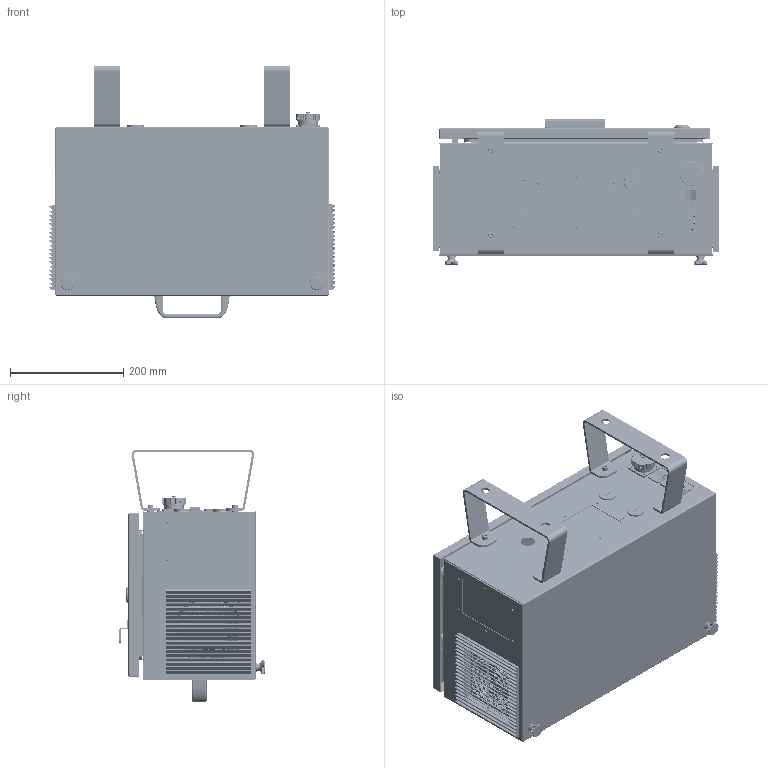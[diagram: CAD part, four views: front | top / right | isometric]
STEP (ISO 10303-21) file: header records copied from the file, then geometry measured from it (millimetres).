
FILE_DESCRIPTION (( 'STEP AP214' ), '1' );
FILE_NAME ('ERB3C2K0¿ØÖÆ¹ñ.STEP', '2026-01-29T02:34:17', ( '' ), ( '' ), 'SwSTEP 2.0', 'SolidWorks 2020', '' );
FILE_SCHEMA (( 'AUTOMOTIVE_DESIGN' ));
Length unit declared in the file: millimetre
Products named in the file (40): cross recessed countersunk head screws gb2_GB_CROSS_SCREWS_TYPE10 M3X8-6.35-Z1-N; NA60200485_D9 軗盄盓殤; NA21100007_徹薦ん(EMC); 蟻裔 M25X1.5 窪伎 湍蹟譫; knurled thumb screws gb_GB_KNURLED_SCREWS_TYPE1 M8X12-N; hexagon socket head cap screws gb_GB_FASTENER_SCREWS_HSHCS M8X12-N; hexagon socket head cap screws gb_GB_FASTENER_SCREWS_HSHCS M6X10-N; cross recessed countersunk head screws gb2_GB_CROSS_SCREWS_TYPE10 M3X16-14.35-Z1-N; 瑞圮-SanAce_9GV_120x38_RBL; NA60200421_躇猾啣01; hexagon nuts with flange gb_GB_HEXAGON_TYPE12 M8-N; 躇猾沭 RH-GS-D0818-EMC 1285mm; NA60200482_D9 假蚾鍼踢-C; NA60200484_D9 1000W萇埭假蚾盓殤; ERB3C2K0諷秶嶄; 蝓蟈 HGZ-201-ST; NA60200430_蟀諉ん假蚾鍼踢-C20; EMC鍼踢; NA20600043_摒倰羲壽; BRAKE_C_2.3-0919; AC_STDBY_A1-20231113; 脣种; 菁釱; 眊极-C; 蛌忕坶 MS705 H=25; NA20200208_220V萇埭脣釱(CS620&625); NA20200197_瑤脣釱-CS620蚳蚚-WY32K8Z; 盓殤-C; 藷-C; NA60401323_ERB1C眊极; NA60200382_唑境-C; NA60200483_D9 IO啣假蚾盓殤-C; 蟀諉え; ERB3C2K0眊极-湍蟀諉ん諳_ERB2C2k0; hex nuts, style 1-grades ab gb_GB_FASTENER_NUT_SNAB1 M3-N; 枑忒 UPFN26-117-B; FE-460-2
Assembly tree (97 placements, depth 5):
  ERB3C2K0諷秶嶄
    ERB3C2K0眊极-湍蟀諉ん諳_ERB2C2k0
      NA60401323_ERB1C眊极
        眊极-C
        盓殤-C  x2
        藷-C
        蝓蟈 HGZ-201-ST
          蟀諉え
          菁釱
          脣种  x2
        蛌忕坶 MS705 H=25
        蟻裔 M25X1.5 窪伎 湍蹟譫  x3
        躇猾沭 RH-GS-D0818-EMC 1285mm
        hexagon socket head cap screws gb_GB_FASTENER_SCREWS_HSHCS M6X10-N  x10
        knurled thumb screws gb_GB_KNURLED_SCREWS_TYPE1 M8X12-N  x2
        hexagon nuts with flange gb_GB_HEXAGON_TYPE12 M8-N  x2
        hexagon socket head cap screws gb_GB_FASTENER_SCREWS_HSHCS M8X12-N  x2
        蝓蟈 HGZ-201-ST
          蟀諉え
          菁釱
          脣种  x2
        枑忒 UPFN26-117-B
      NA21100007_徹薦ん(EMC)
        EMC鍼踢
        FE-460-2
        cross recessed countersunk head screws gb2_GB_CROSS_SCREWS_TYPE10 M3X8-6.35-Z1-N  x4
        cross recessed countersunk head screws gb2_GB_CROSS_SCREWS_TYPE10 M3X16-14.35-Z1-N  x4
        hex nuts, style 1-grades ab gb_GB_FASTENER_NUT_SNAB1 M3-N  x4
      NA60200421_躇猾啣01  x2
      NA60200382_唑境-C
      NA60200430_蟀諉ん假蚾鍼踢-C20
      NA20600043_摒倰羲壽
      NA20200208_220V萇埭脣釱(CS620&625)
      NA20200197_瑤脣釱-CS620蚳蚚-WY32K8Z
      NA21100007_徹薦ん(EMC)
        EMC鍼踢
        FE-460-2
        cross recessed countersunk head screws gb2_GB_CROSS_SCREWS_TYPE10 M3X8-6.35-Z1-N  x4
        cross recessed countersunk head screws gb2_GB_CROSS_SCREWS_TYPE10 M3X16-14.35-Z1-N  x4
        hex nuts, style 1-grades ab gb_GB_FASTENER_NUT_SNAB1 M3-N  x4
    NA21100007_徹薦ん(EMC)
      EMC鍼踢
      FE-460-2
      cross recessed countersunk head screws gb2_GB_CROSS_SCREWS_TYPE10 M3X8-6.35-Z1-N  x4
      cross recessed countersunk head screws gb2_GB_CROSS_SCREWS_TYPE10 M3X16-14.35-Z1-N  x4
      hex nuts, style 1-grades ab gb_GB_FASTENER_NUT_SNAB1 M3-N  x4
    NA60200482_D9 假蚾鍼踢-C
    NA60200483_D9 IO啣假蚾盓殤-C
    NA60200484_D9 1000W萇埭假蚾盓殤
    NA60200485_D9 軗盄盓殤
    瑞圮-SanAce_9GV_120x38_RBL
    AC_STDBY_A1-20231113
    BRAKE_C_2.3-0919
Bounding box: 505.4 x 256.9 x 447.12 mm (x, y, z)
Volume: 2269092.3 mm3; surface area: 2665505.5 mm2
Topology: 105 solids, 541 shells, 14543 faces, 42666 edges, 28473 vertices
Faces by surface type: plane 9105, cylinder 3866, cone 540, bspline 493, torus 412, sphere 127
Entity records: 377833 total; most frequent: CARTESIAN_POINT 111762, ORIENTED_EDGE 46033, DIRECTION 44831, EDGE_CURVE 26285, VERTEX_POINT 18322, LINE 16943, VECTOR 16943, AXIS2_PLACEMENT_3D 13944
